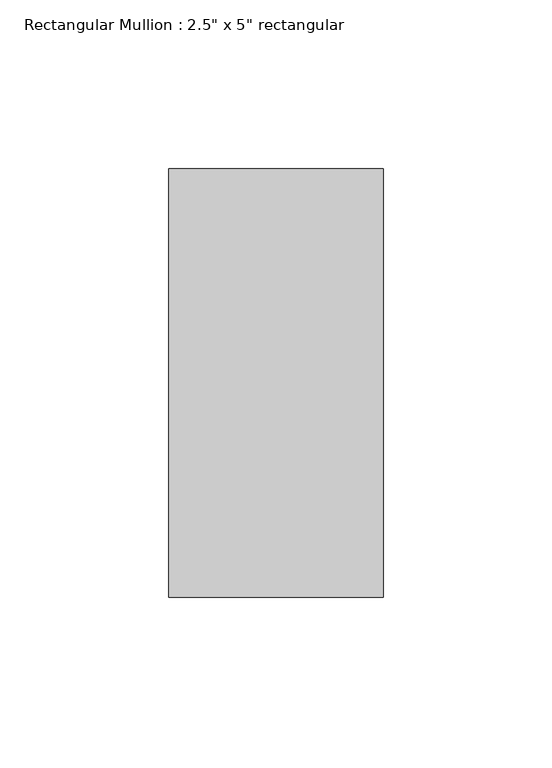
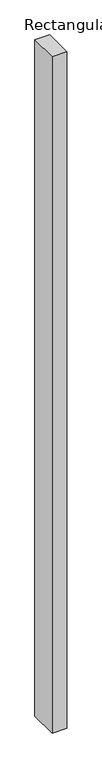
"""IFC4 building model written with IfcOpenShell, lengths in millimetres: member geometry."""

from ifc_helpers import new_model, si_unit, frame, origin, place, context, project, spatial, polyline, outline, extrude, source, transform, mapped, element, save


def member_a22931d6(model_context):
    return source(origin(), model_context, "Body", "SweptSolid", [
        extrude(outline(polyline([(31.75, 63.5), (31.75, -63.5), (-31.75, -63.5), (-31.75, 63.5), (31.75, 63.5)])), frame((0.0, 0.0, -3054.35), z_axis=(0.0, 0.0, 1.0), x_axis=(1.0, 0.0, 0.0)), (0.0, 0.0, 1.0), 3054.35),
    ])


if __name__ == "__main__":
    model = new_model("IFC4")
    model_context = context("Model", 3, world=origin())
    ifc_project = project(units=[si_unit("LENGTHUNIT", "METRE", prefix="MILLI")], contexts=[model_context])
    site = spatial("IfcSite", under=ifc_project)
    building = spatial("IfcBuilding", under=site)
    placement = place(None, origin())
    member_shape = member_a22931d6(model_context)
    element("IfcMember", 1, ObjectType="Rectangular Mullion : 2.5\" x 5\" rectangular", at=placement, inside=building, context=model_context, shape_type="MappedRepresentation", body=[
        mapped(member_shape, transform((0.0, 0.0, 0.0), x_axis=(1.0, 0.0, 0.0), y_axis=(0.0, 1.0, 0.0), z_axis=(0.0, 0.0, 1.0))),
    ])
    save(model, "model.ifc")
